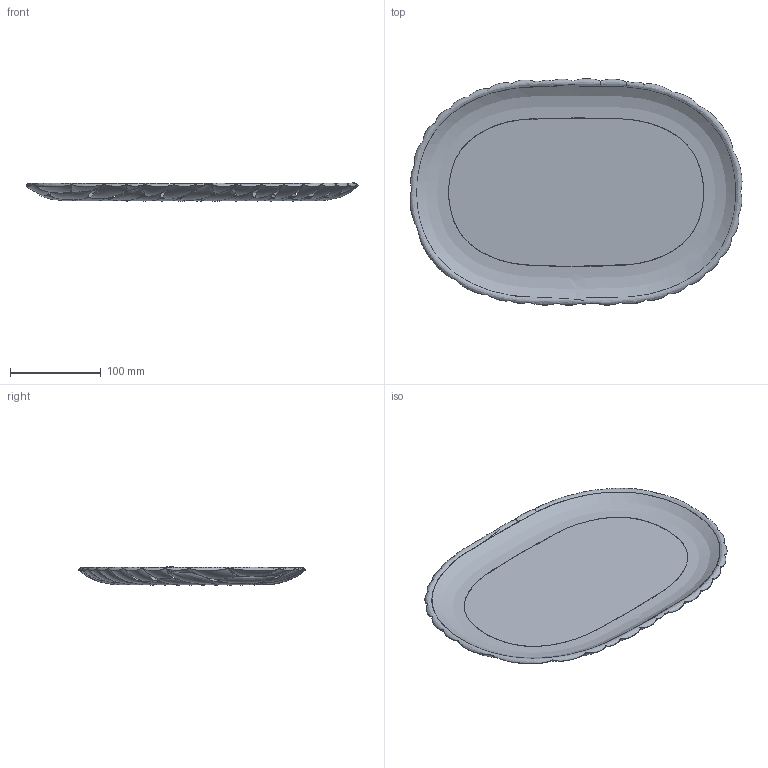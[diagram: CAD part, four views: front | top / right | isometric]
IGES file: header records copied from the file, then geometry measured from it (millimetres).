
Global section: file name: D:\3ddFactory\3D_Kartell\da controllare_3dd\Tavolo urquiola\1580\Jellies Family_3d_Patricia Urquiola_Kartell.igs; native system: Rhinoceros ( Mar 10 2014 ); preprocessor: Trout Lake IGES 012 Mar 10 2014; date: 180210.151608; units: millimetre
Bounding box: 365.98 x 249.61 x 19.88 mm (x, y, z)
Surface area: 159254.4 mm2 (no closed solid volume)
Topology: 0 solids, 0 shells, 92 faces, 1376 edges, 1306 vertices
Faces by surface type: bspline 92
